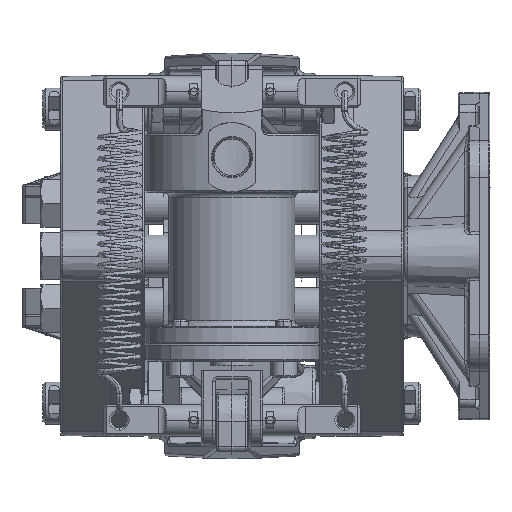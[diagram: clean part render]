
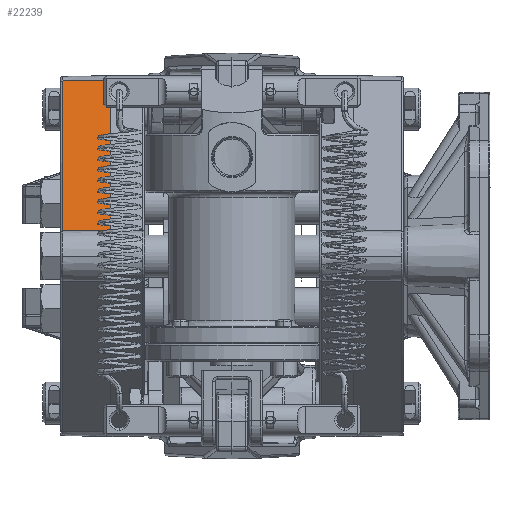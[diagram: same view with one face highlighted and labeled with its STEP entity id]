
A CAD part, left-side view. The second image highlights one B-rep face of the part: STEP entity #22239.
In plain terms, the highlighted planar face has unit normal (-0.515, 0.018, 0.857).
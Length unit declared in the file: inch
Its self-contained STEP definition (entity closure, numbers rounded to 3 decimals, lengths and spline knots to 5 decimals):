
#4577 = CARTESIAN_POINT ( 'NONE',  ( -0.50627, 1.4415, 2.09287 ) ) ;
#12148 = CARTESIAN_POINT ( 'NONE',  ( -3.47082, 2.02185, 0.29977 ) ) ;
#14436 = VERTEX_POINT ( 'NONE', #4577 ) ;
#17881 = DIRECTION ( 'NONE',  ( -0.515, 0.017, 0.857 ) ) ;
#20555 = VECTOR ( 'NONE', #57433, 39.37008 ) ;
#22239 = ADVANCED_FACE ( 'NONE', ( #43564 ), #85708, .T. ) ;
#26065 = DIRECTION ( 'NONE',  ( -0.857, 0., -0.515 ) ) ;
#27672 = VECTOR ( 'NONE', #81890, 39.37008 ) ;
#27929 = VECTOR ( 'NONE', #103449, 39.37008 ) ;
#29888 = EDGE_CURVE ( 'NONE', #69485, #69310, #106554, .T. ) ;
#31246 = B_SPLINE_CURVE_WITH_KNOTS ( 'NONE', 3,
 ( #53365, #36946, #90406, #70320 ),
 .UNSPECIFIED., .F., .F.,
 ( 4, 4 ),
 ( 0., 0.01474 ),
 .UNSPECIFIED. ) ;
#31311 = AXIS2_PLACEMENT_3D ( 'NONE', #92878, #17881, #26065 ) ;
#32740 = EDGE_CURVE ( 'NONE', #33932, #69310, #31246, .T. ) ;
#33932 = VERTEX_POINT ( 'NONE', #71409 ) ;
#36946 = CARTESIAN_POINT ( 'NONE',  ( -3.47306, 1.63495, 0.3063 ) ) ;
#43564 = FACE_OUTER_BOUND ( 'NONE', #49537, .T. ) ;
#47641 = CARTESIAN_POINT ( 'NONE',  ( -0.50106, 2.02185, 2.08418 ) ) ;
#48488 = CARTESIAN_POINT ( 'NONE',  ( -2.10796, 2.02185, 1.11866 ) ) ;
#49220 = LINE ( 'NONE', #57971, #20555 ) ;
#49537 = EDGE_LOOP ( 'NONE', ( #105265, #100767, #87548, #97503 ) ) ;
#53365 = CARTESIAN_POINT ( 'NONE',  ( -3.47419, 1.4415, 0.30956 ) ) ;
#57433 = DIRECTION ( 'NONE',  ( 0.009, 1., -0.015 ) ) ;
#57971 = CARTESIAN_POINT ( 'NONE',  ( -0.50627, 1.4415, 2.09287 ) ) ;
#60214 = CARTESIAN_POINT ( 'NONE',  ( -2.11317, 1.4415, 1.12734 ) ) ;
#64010 = EDGE_CURVE ( 'NONE', #14436, #69485, #49220, .T. ) ;
#69310 = VERTEX_POINT ( 'NONE', #12148 ) ;
#69485 = VERTEX_POINT ( 'NONE', #47641 ) ;
#70320 = CARTESIAN_POINT ( 'NONE',  ( -3.47082, 2.02185, 0.29977 ) ) ;
#70422 = EDGE_CURVE ( 'NONE', #14436, #33932, #94710, .T. ) ;
#71409 = CARTESIAN_POINT ( 'NONE',  ( -3.47419, 1.4415, 0.30956 ) ) ;
#81890 = DIRECTION ( 'NONE',  ( -0.857, 0., -0.515 ) ) ;
#85708 = PLANE ( 'NONE',  #31311 ) ;
#87548 = ORIENTED_EDGE ( 'NONE', *, *, #32740, .F. ) ;
#90406 = CARTESIAN_POINT ( 'NONE',  ( -3.47194, 1.8284, 0.30304 ) ) ;
#92878 = CARTESIAN_POINT ( 'NONE',  ( -2.11317, 1.4415, 1.12734 ) ) ;
#94710 = LINE ( 'NONE', #60214, #27929 ) ;
#97503 = ORIENTED_EDGE ( 'NONE', *, *, #70422, .F. ) ;
#100767 = ORIENTED_EDGE ( 'NONE', *, *, #29888, .T. ) ;
#103449 = DIRECTION ( 'NONE',  ( -0.857, 0., -0.515 ) ) ;
#105265 = ORIENTED_EDGE ( 'NONE', *, *, #64010, .T. ) ;
#106554 = LINE ( 'NONE', #48488, #27672 ) ;
